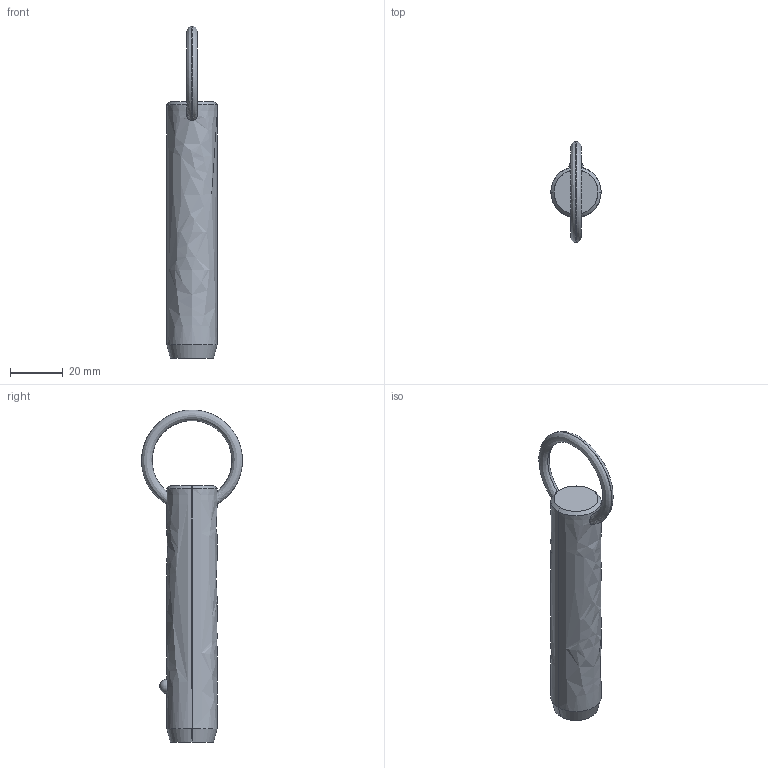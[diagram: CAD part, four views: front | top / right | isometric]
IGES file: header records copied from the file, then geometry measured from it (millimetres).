
Start section: SolidWorks IGES file using analytic representation for surfaces
Global section: file name: C:\Users\liam_\OneDrive\Documents\WORK\Work for WixRoyd\Job Files\J-00019 - Matt Davis CAD Checking\04. CAD Drawings\automotion20190605\P1250.2_v2\P1250.2_v2_20190729_IGES\P1250.075-250.igs; native system: SolidWorks 2017; preprocessor: SolidWorks 2017; author: liam_; date: 190729.235016; units: millimetre
Bounding box: 19 x 38.1 x 125.29 mm (x, y, z)
Surface area: 7304.9 mm2 (no closed solid volume)
Topology: 0 solids, 0 shells, 12 faces, 294 edges, 292 vertices
Faces by surface type: revolution 8, bspline 4
